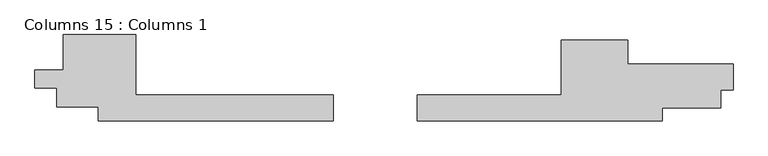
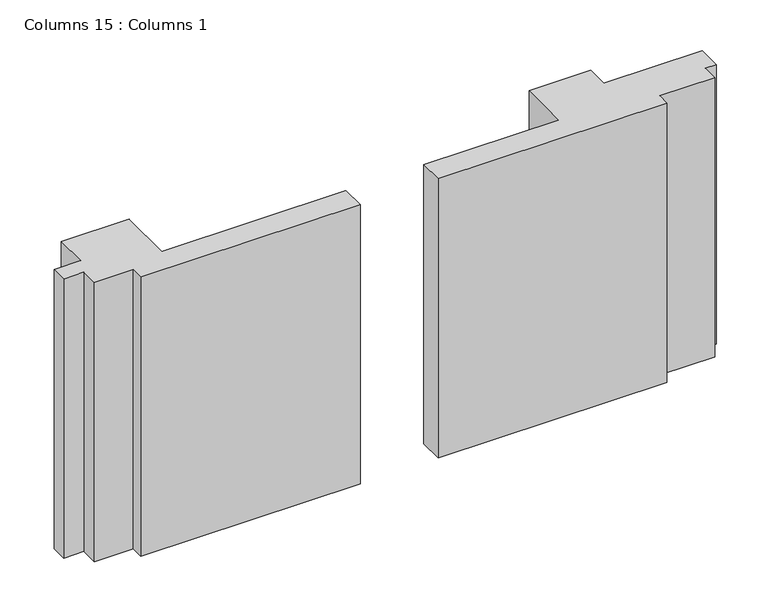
"""IFC4 building model written with IfcOpenShell, lengths in millimetres: column geometry, Columns 15 : Columns 1."""

from ifc_helpers import new_model, si_unit, origin, origin_with_axes, place, context, project, spatial, polyline, outline, extrude, source, transform, mapped, element, save


def columns_15_columns_1_a5632d5a(model_context):
    return source(origin(), model_context, "Body", "SweptSolid", [
        extrude(outline(polyline([(-15242.601455, 87265.3591334), (-15242.601455, 87468.5591334), (-14913.8338684, 87468.5591334), (-14913.8338684, 87879.1643275), (-14075.6338684, 87879.1643275), (-14075.6338684, 87866.4643275), (-14075.6338684, 87184.2820472), (-11793.5585473, 87184.2820472), (-11793.5585473, 86879.4820472), (-14511.3585473, 86879.4820472), (-14511.3585473, 87040.9643275), (-14989.7375153, 87040.9643275), (-14989.7375153, 87265.3591334), (-15242.601455, 87265.3591334)])), origin_with_axes(), (0.0, 0.0, 1.0), 3657.6),
        extrude(outline(polyline([(-10828.3585473, 87184.2820472), (-9160.1520678, 87184.2820472), (-9160.1520678, 87819.2820472), (-8395.8339722, 87819.2820472), (-8395.8339722, 87542.4589024), (-7177.1085473, 87542.4589024), (-7177.1085473, 87237.6589024), (-7317.035578, 87237.6589024), (-7317.035578, 87034.4589024), (-7996.2585473, 87034.4589024), (-7996.2585473, 86879.4820472), (-10828.3585473, 86879.4820472), (-10828.3585473, 87184.2820472)])), origin_with_axes(), (0.0, 0.0, 1.0), 3657.6),
    ])


if __name__ == "__main__":
    model = new_model("IFC4")
    model_context = context("Model", 3, world=origin())
    ifc_project = project(units=[si_unit("LENGTHUNIT", "METRE", prefix="MILLI")], contexts=[model_context])
    site = spatial("IfcSite", under=ifc_project)
    building = spatial("IfcBuilding", under=site)
    placement = place(None, origin())
    columns_15_columns_1_shape = columns_15_columns_1_a5632d5a(model_context)
    element("IfcColumn", 1, ObjectType="Columns 15 : Columns 1", at=placement, inside=building, context=model_context, shape_type="MappedRepresentation", body=[
        mapped(columns_15_columns_1_shape, transform((0.0, 0.0, 0.0), x_axis=(1.0, 0.0, 0.0), y_axis=(0.0, 1.0, 0.0), z_axis=(0.0, 0.0, 1.0))),
    ])
    save(model, "model.ifc")
